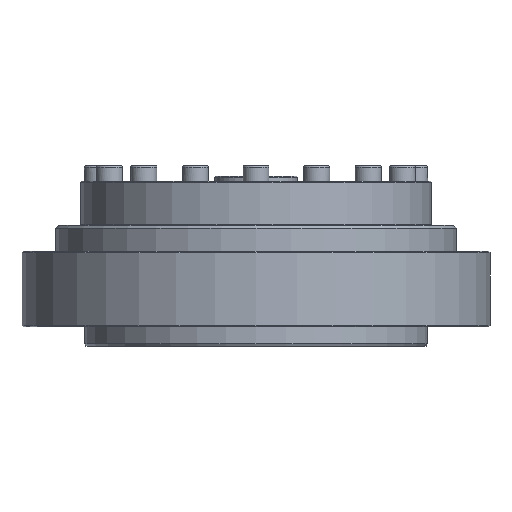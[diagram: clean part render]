
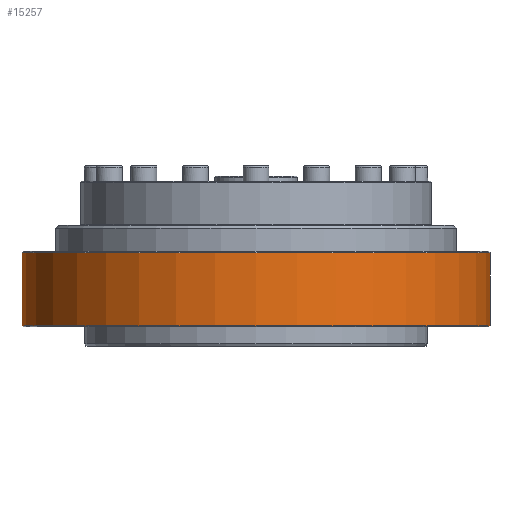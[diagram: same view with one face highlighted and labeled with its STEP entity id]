
A CAD part, front view. The second image highlights one B-rep face of the part: STEP entity #15257.
In plain terms, the highlighted cylindrical face has radius 90 mm (diameter 180 mm), a full revolution.
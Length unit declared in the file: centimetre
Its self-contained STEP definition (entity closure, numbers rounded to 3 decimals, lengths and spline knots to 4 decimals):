
#3844=FACE_BOUND('',#5836,.T.);
#4596=FACE_OUTER_BOUND('',#5835,.T.);
#5835=EDGE_LOOP('',(#13740));
#5836=EDGE_LOOP('',(#13741));
#6800=CIRCLE('',#16909,9.);
#6802=CIRCLE('',#16913,9.);
#8039=VERTEX_POINT('',#27108);
#8041=VERTEX_POINT('',#27114);
#9952=EDGE_CURVE('',#8039,#8039,#6800,.T.);
#9954=EDGE_CURVE('',#8041,#8041,#6802,.T.);
#13740=ORIENTED_EDGE('',*,*,#9952,.F.);
#13741=ORIENTED_EDGE('',*,*,#9954,.F.);
#14492=CYLINDRICAL_SURFACE('',#16912,9.);
#15257=ADVANCED_FACE('',(#4596,#3844),#14492,.T.);
#16909=AXIS2_PLACEMENT_3D('',#27109,#20806,#20807);
#16912=AXIS2_PLACEMENT_3D('',#27113,#20812,#20813);
#16913=AXIS2_PLACEMENT_3D('',#27115,#20814,#20815);
#20806=DIRECTION('center_axis',(0.,0.,-1.));
#20807=DIRECTION('ref_axis',(-1.,0.,0.));
#20812=DIRECTION('center_axis',(0.,0.,-1.));
#20813=DIRECTION('ref_axis',(1.,0.,0.));
#20814=DIRECTION('center_axis',(0.,0.,1.));
#20815=DIRECTION('ref_axis',(-1.,0.,0.));
#27108=CARTESIAN_POINT('',(9.,0.,0.8));
#27109=CARTESIAN_POINT('Origin',(0.,0.,0.8));
#27113=CARTESIAN_POINT('Origin',(0.,0.,2.125));
#27114=CARTESIAN_POINT('',(9.,0.,3.6));
#27115=CARTESIAN_POINT('Origin',(0.,0.,3.6));
